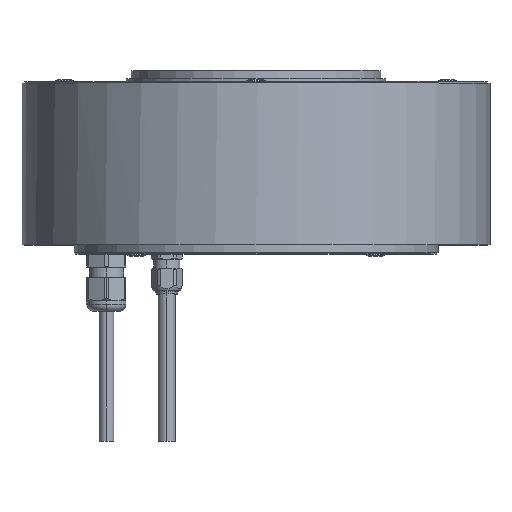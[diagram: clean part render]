
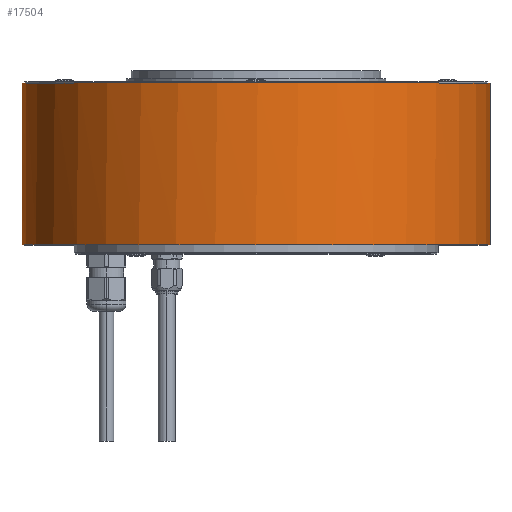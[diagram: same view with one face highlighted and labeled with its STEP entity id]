
A CAD part, top view. The second image highlights one B-rep face of the part: STEP entity #17504.
In plain terms, the highlighted cylindrical face has radius 90 mm (diameter 180 mm), a partial arc.
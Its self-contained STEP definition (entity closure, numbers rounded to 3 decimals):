
#111 = B_SPLINE_CURVE_WITH_KNOTS ( 'NONE', 3,
 ( #10547, #17093, #2091, #12285, #10124, #18512, #3708, #16763, #2198, #7287, #3933, #1874, #3604, #15132, #13704, #12191, #10228, #20344 ),
 .UNSPECIFIED., .F., .F.,
 ( 4, 2, 2, 2, 2, 2, 2, 2, 4 ),
 ( 0., 0.001, 0.002, 0.002, 0.003, 0.004, 0.005, 0.006, 0.007 ),
 .UNSPECIFIED. ) ;
#304 = ORIENTED_EDGE ( 'NONE', *, *, #15470, .F. ) ;
#329 = CARTESIAN_POINT ( 'NONE',  ( -90., 10.75, 0. ) ) ;
#833 = ORIENTED_EDGE ( 'NONE', *, *, #3690, .F. ) ;
#857 = CARTESIAN_POINT ( 'NONE',  ( -89.9, 15.277, 4.25 ) ) ;
#896 = DIRECTION ( 'NONE',  ( -1., 0., 0. ) ) ;
#960 = CARTESIAN_POINT ( 'NONE',  ( -89.919, 16.883, 3.82 ) ) ;
#1411 = CARTESIAN_POINT ( 'NONE',  ( -90., 0., 0. ) ) ;
#1509 = CARTESIAN_POINT ( 'NONE',  ( -89.9, 15., 4.25 ) ) ;
#1765 = CARTESIAN_POINT ( 'NONE',  ( -89.981, 18.82, 1.883 ) ) ;
#1872 = CARTESIAN_POINT ( 'NONE',  ( -89.925, 17.132, 3.687 ) ) ;
#1874 = CARTESIAN_POINT ( 'NONE',  ( -89.925, 12.871, 3.689 ) ) ;
#2091 = CARTESIAN_POINT ( 'NONE',  ( -89.999, 10.778, 0.557 ) ) ;
#2187 = EDGE_CURVE ( 'NONE', #12940, #18639, #18975, .T. ) ;
#2198 = CARTESIAN_POINT ( 'NONE',  ( -89.956, 11.8, 2.81 ) ) ;
#2793 = VECTOR ( 'NONE', #9648, 1000. ) ;
#2832 = CARTESIAN_POINT ( 'NONE',  ( -90., -3., 0. ) ) ;
#2886 = ORIENTED_EDGE ( 'NONE', *, *, #15104, .F. ) ;
#3022 = EDGE_LOOP ( 'NONE', ( #5557, #12361, #16436, #14434, #833, #3368, #2886, #17131, #304 ) ) ;
#3309 = VERTEX_POINT ( 'NONE', #18527 ) ;
#3368 = ORIENTED_EDGE ( 'NONE', *, *, #4408, .F. ) ;
#3574 = DIRECTION ( 'NONE',  ( 0., 1., 0. ) ) ;
#3604 = CARTESIAN_POINT ( 'NONE',  ( -89.919, 13.118, 3.821 ) ) ;
#3690 = EDGE_CURVE ( 'NONE', #7453, #12940, #16692, .T. ) ;
#3708 = CARTESIAN_POINT ( 'NONE',  ( -89.975, 11.312, 2.129 ) ) ;
#3933 = CARTESIAN_POINT ( 'NONE',  ( -89.937, 12.406, 3.378 ) ) ;
#4192 = AXIS2_PLACEMENT_3D ( 'NONE', #9352, #15999, #14796 ) ;
#4408 = EDGE_CURVE ( 'NONE', #3309, #7453, #8766, .T. ) ;
#5115 = CARTESIAN_POINT ( 'NONE',  ( -90., 19.25, 0.277 ) ) ;
#5328 = CARTESIAN_POINT ( 'NONE',  ( -89.999, 19.222, 0.559 ) ) ;
#5557 = ORIENTED_EDGE ( 'NONE', *, *, #16318, .F. ) ;
#6052 = DIRECTION ( 'NONE',  ( 0., 1., 0. ) ) ;
#6531 = CARTESIAN_POINT ( 'NONE',  ( -89.991, 62.2, 1.25 ) ) ;
#6772 = CARTESIAN_POINT ( 'NONE',  ( 0., 0., 0. ) ) ;
#7100 = EDGE_CURVE ( 'NONE', #20776, #11455, #11074, .T. ) ;
#7287 = CARTESIAN_POINT ( 'NONE',  ( -89.943, 12.192, 3.202 ) ) ;
#7433 = CARTESIAN_POINT ( 'NONE',  ( -89.901, 15.559, 4.222 ) ) ;
#7453 = VERTEX_POINT ( 'NONE', #7558 ) ;
#7558 = CARTESIAN_POINT ( 'NONE',  ( -90., 62., 0. ) ) ;
#7650 = CARTESIAN_POINT ( 'NONE',  ( -89.9, 15., 4.25 ) ) ;
#7985 = EDGE_CURVE ( 'NONE', #13637, #11966, #111, .T. ) ;
#8076 = DIRECTION ( 'NONE',  ( 0., -1., 0. ) ) ;
#8596 = CIRCLE ( 'NONE', #13823, 90. ) ;
#8766 = LINE ( 'NONE', #12150, #21031 ) ;
#8943 = DIRECTION ( 'NONE',  ( 0., 1., 0. ) ) ;
#9167 = CARTESIAN_POINT ( 'NONE',  ( -89.906, 16.104, 4.114 ) ) ;
#9352 = CARTESIAN_POINT ( 'NONE',  ( 0., 62., 0. ) ) ;
#9428 = CARTESIAN_POINT ( 'NONE',  ( 90., -3., 0. ) ) ;
#9648 = DIRECTION ( 'NONE',  ( 0., 1., 0. ) ) ;
#9782 = AXIS2_PLACEMENT_3D ( 'NONE', #17223, #8943, #15275 ) ;
#10009 = CARTESIAN_POINT ( 'NONE',  ( -89.937, 17.592, 3.379 ) ) ;
#10124 = CARTESIAN_POINT ( 'NONE',  ( -89.99, 10.967, 1.371 ) ) ;
#10228 = CARTESIAN_POINT ( 'NONE',  ( -89.9, 14.723, 4.25 ) ) ;
#10547 = CARTESIAN_POINT ( 'NONE',  ( -90., 10.75, 0. ) ) ;
#11074 = LINE ( 'NONE', #9428, #17397 ) ;
#11455 = VERTEX_POINT ( 'NONE', #14783 ) ;
#11540 = CARTESIAN_POINT ( 'NONE',  ( -90., 19.25, 0. ) ) ;
#11865 = CARTESIAN_POINT ( 'NONE',  ( -89.963, 18.379, 2.592 ) ) ;
#11966 = VERTEX_POINT ( 'NONE', #1509 ) ;
#12150 = CARTESIAN_POINT ( 'NONE',  ( -90., -3., 0. ) ) ;
#12191 = CARTESIAN_POINT ( 'NONE',  ( -89.901, 14.447, 4.223 ) ) ;
#12285 = CARTESIAN_POINT ( 'NONE',  ( -89.994, 10.886, 1.101 ) ) ;
#12361 = ORIENTED_EDGE ( 'NONE', *, *, #7100, .T. ) ;
#12923 = LINE ( 'NONE', #2832, #2793 ) ;
#12940 = VERTEX_POINT ( 'NONE', #13843 ) ;
#12977 = DIRECTION ( 'NONE',  ( 1., 0., 0. ) ) ;
#13637 = VERTEX_POINT ( 'NONE', #329 ) ;
#13704 = CARTESIAN_POINT ( 'NONE',  ( -89.906, 13.898, 4.114 ) ) ;
#13823 = AXIS2_PLACEMENT_3D ( 'NONE', #20655, #6052, #896 ) ;
#13843 = CARTESIAN_POINT ( 'NONE',  ( -89.991, 62., 1.25 ) ) ;
#14067 = CARTESIAN_POINT ( 'NONE',  ( -89.991, 62., 1.25 ) ) ;
#14434 = ORIENTED_EDGE ( 'NONE', *, *, #2187, .F. ) ;
#14716 = B_SPLINE_CURVE_WITH_KNOTS ( 'NONE', 3,
 ( #7650, #857, #7433, #9167, #15811, #960, #1872, #10009, #16866, #16656, #11865, #14806, #1765, #19805, #18510, #5328, #5115, #11540 ),
 .UNSPECIFIED., .F., .F.,
 ( 4, 2, 2, 2, 2, 2, 2, 2, 4 ),
 ( 0.007, 0.007, 0.008, 0.009, 0.01, 0.011, 0.012, 0.012, 0.013 ),
 .UNSPECIFIED. ) ;
#14783 = CARTESIAN_POINT ( 'NONE',  ( 90., 62.2, 0. ) ) ;
#14796 = DIRECTION ( 'NONE',  ( -1., 0., 0. ) ) ;
#14806 = CARTESIAN_POINT ( 'NONE',  ( -89.975, 18.687, 2.132 ) ) ;
#14984 = AXIS2_PLACEMENT_3D ( 'NONE', #6772, #8076, #12977 ) ;
#15104 = EDGE_CURVE ( 'NONE', #11966, #3309, #14716, .T. ) ;
#15132 = CARTESIAN_POINT ( 'NONE',  ( -89.91, 13.63, 4.033 ) ) ;
#15275 = DIRECTION ( 'NONE',  ( -1., 0., 0. ) ) ;
#15323 = CIRCLE ( 'NONE', #14984, 90. ) ;
#15470 = EDGE_CURVE ( 'NONE', #16944, #13637, #12923, .T. ) ;
#15811 = CARTESIAN_POINT ( 'NONE',  ( -89.91, 16.369, 4.033 ) ) ;
#15937 = VECTOR ( 'NONE', #20710, 1000. ) ;
#15999 = DIRECTION ( 'NONE',  ( 0., 1., 0. ) ) ;
#16072 = DIRECTION ( 'NONE',  ( 0., 1., 0. ) ) ;
#16318 = EDGE_CURVE ( 'NONE', #20776, #16944, #15323, .T. ) ;
#16436 = ORIENTED_EDGE ( 'NONE', *, *, #21490, .F. ) ;
#16656 = CARTESIAN_POINT ( 'NONE',  ( -89.956, 18.203, 2.807 ) ) ;
#16692 = CIRCLE ( 'NONE', #4192, 90. ) ;
#16763 = CARTESIAN_POINT ( 'NONE',  ( -89.963, 11.62, 2.592 ) ) ;
#16866 = CARTESIAN_POINT ( 'NONE',  ( -89.943, 17.807, 3.204 ) ) ;
#16944 = VERTEX_POINT ( 'NONE', #1411 ) ;
#17048 = CARTESIAN_POINT ( 'NONE',  ( 90., 0., 0. ) ) ;
#17093 = CARTESIAN_POINT ( 'NONE',  ( -90., 10.75, 0.281 ) ) ;
#17131 = ORIENTED_EDGE ( 'NONE', *, *, #7985, .F. ) ;
#17223 = CARTESIAN_POINT ( 'NONE',  ( 0., -3., 0. ) ) ;
#17397 = VECTOR ( 'NONE', #16072, 1000. ) ;
#17504 = ADVANCED_FACE ( 'NONE', ( #20379 ), #18761, .T. ) ;
#18510 = CARTESIAN_POINT ( 'NONE',  ( -89.994, 19.114, 1.104 ) ) ;
#18512 = CARTESIAN_POINT ( 'NONE',  ( -89.981, 11.181, 1.885 ) ) ;
#18527 = CARTESIAN_POINT ( 'NONE',  ( -90., 19.25, 0. ) ) ;
#18639 = VERTEX_POINT ( 'NONE', #6531 ) ;
#18761 = CYLINDRICAL_SURFACE ( 'NONE', #9782, 90. ) ;
#18975 = LINE ( 'NONE', #14067, #15937 ) ;
#19805 = CARTESIAN_POINT ( 'NONE',  ( -89.99, 19.033, 1.368 ) ) ;
#20344 = CARTESIAN_POINT ( 'NONE',  ( -89.9, 15., 4.25 ) ) ;
#20379 = FACE_OUTER_BOUND ( 'NONE', #3022, .T. ) ;
#20655 = CARTESIAN_POINT ( 'NONE',  ( 0., 62.2, 0. ) ) ;
#20710 = DIRECTION ( 'NONE',  ( 0., 1., 0. ) ) ;
#20776 = VERTEX_POINT ( 'NONE', #17048 ) ;
#21031 = VECTOR ( 'NONE', #3574, 1000. ) ;
#21490 = EDGE_CURVE ( 'NONE', #18639, #11455, #8596, .T. ) ;
